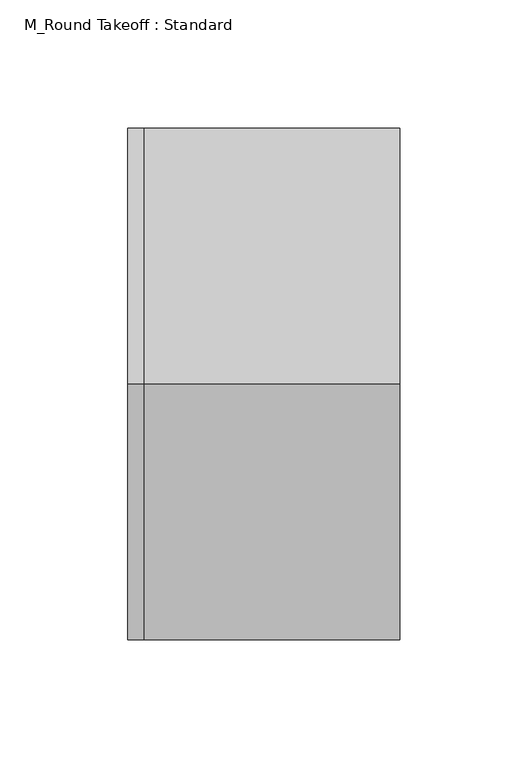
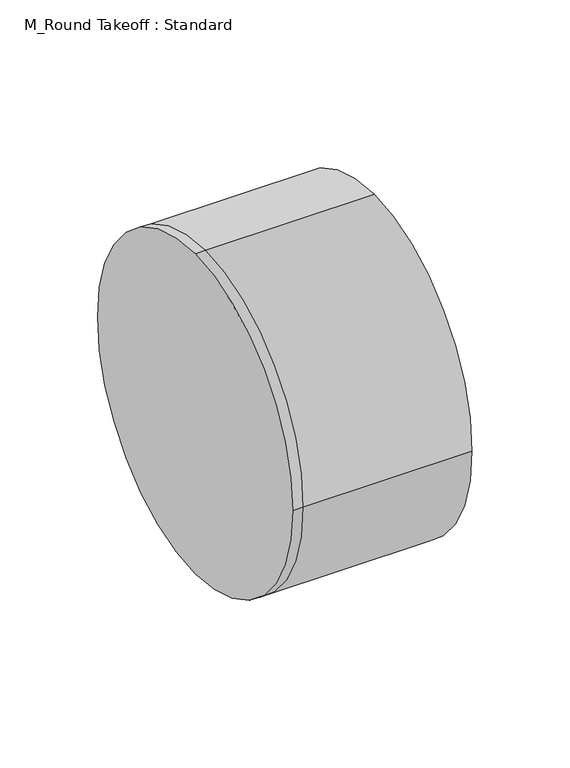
"""IFC4 building model written with IfcOpenShell, lengths in millimetres: duct fitting geometry, M_Round Takeoff : Standard."""

from ifc_helpers import new_model, si_unit, frame, origin, place, context, project, spatial, circle_curve, source, transform, mapped, element, save
from ifc_brep_helpers import plane_surface, cylinder_surface, advanced_brep


def m_round_takeoff_standard_9d520736(model_context):
    return source(origin(), model_context, "Body", "AdvancedBrep", [
        advanced_brep(
        [(-6.0960689, 0.0, 100.0), (-6.0960689, 100.0, 0.0), (-6.0960689, 0.0, -100.0), (-6.0960689, -100.0, 0.0), (0.0, 0.0, 100.0), (0.0, 100.0, 0.0), (0.0, 0.0, -100.0), (0.0, -100.0, 0.0), (100.0000689, 0.0, 100.0), (100.0000689, -100.0, 0.0), (100.0000689, 0.0, -100.0), (100.0000689, 100.0, 0.0)],
        [
            (0, 1, circle_curve(frame((-6.0960689, 0.0, 0.0), z_axis=(-1.0, 0.0, 0.0), x_axis=(0.0, 1.0, 0.0)), 100.0)),
            (1, 2, circle_curve(frame((-6.0960689, 0.0, 0.0), z_axis=(-1.0, 0.0, 0.0), x_axis=(0.0, 1.0, 0.0)), 100.0)),
            (2, 3, circle_curve(frame((-6.0960689, 0.0, 0.0), z_axis=(-1.0, 0.0, 0.0), x_axis=(0.0, 1.0, 0.0)), 100.0)),
            (3, 0, circle_curve(frame((-6.0960689, 0.0, 0.0), z_axis=(-1.0, 0.0, 0.0), x_axis=(0.0, 1.0, 0.0)), 100.0)),
            (0, 4),
            (4, 5, circle_curve(frame((0.0, 0.0, 0.0), z_axis=(-1.0, 0.0, 0.0), x_axis=(0.0, 1.0, 0.0)), 100.0)),
            (5, 1),
            (5, 6, circle_curve(frame((0.0, 0.0, 0.0), z_axis=(-1.0, 0.0, 0.0), x_axis=(0.0, 1.0, 0.0)), 100.0)),
            (6, 2),
            (6, 7, circle_curve(frame((0.0, 0.0, 0.0), z_axis=(-1.0, 0.0, 0.0), x_axis=(0.0, 1.0, 0.0)), 100.0)),
            (7, 3),
            (7, 4, circle_curve(frame((0.0, 0.0, 0.0), z_axis=(-1.0, 0.0, 0.0), x_axis=(0.0, 1.0, 0.0)), 100.0)),
            (8, 9, circle_curve(frame((100.0000689, 0.0, 0.0), z_axis=(1.0, 0.0, 0.0), x_axis=(0.0, 1.0, 0.0)), 100.0)),
            (9, 10, circle_curve(frame((100.0000689, 0.0, 0.0), z_axis=(1.0, 0.0, 0.0), x_axis=(0.0, 1.0, 0.0)), 100.0)),
            (10, 11, circle_curve(frame((100.0000689, 0.0, 0.0), z_axis=(1.0, 0.0, 0.0), x_axis=(0.0, 1.0, 0.0)), 100.0)),
            (11, 8, circle_curve(frame((100.0000689, 0.0, 0.0), z_axis=(1.0, 0.0, 0.0), x_axis=(0.0, 1.0, 0.0)), 100.0)),
            (11, 5),
            (4, 8),
            (10, 6),
            (9, 7),
        ],
        [
            plane_surface(frame((-6.0960689, 0.0, 0.0), z_axis=(-1.0, 0.0, 0.0), x_axis=(0.0, 0.0, 1.0))),
            cylinder_surface(frame((-6.0960689, 0.0, 0.0), z_axis=(-1.0, 0.0, 0.0), x_axis=(0.0, 1.0, 0.0)), 100.0),
            plane_surface(frame((100.0000689, 0.0, 0.0), z_axis=(1.0, 0.0, 0.0), x_axis=(0.0, 0.0, 1.0))),
            cylinder_surface(frame((0.0, 0.0, 0.0), z_axis=(-1.0, 0.0, 0.0), x_axis=(0.0, 1.0, 0.0)), 100.0),
        ],
        [
            (0, [[1, 2, 3, 4]]),
            (1, [[-1, 5, 6, 7]]),
            (1, [[-2, -7, 8, 9]]),
            (1, [[-3, -9, 10, 11]]),
            (1, [[-4, -11, 12, -5]]),
            (2, [[13, 14, 15, 16]]),
            (3, [[-16, 17, -6, 18]]),
            (3, [[-15, 19, -8, -17]]),
            (3, [[-14, 20, -10, -19]]),
            (3, [[-13, -18, -12, -20]]),
        ],
    ),
        advanced_brep(
        [(100.0000689, 0.0, 100.0), (100.0000689, -100.0, 0.0), (100.0000689, 0.0, -100.0), (100.0000689, 100.0, 0.0), (0.0, 100.0, 0.0), (0.0, 0.0, 100.0), (0.0, 0.0, -100.0), (0.0, -100.0, 0.0), (-6.0960689, 0.0, 100.0), (-6.0960689, 100.0, 0.0), (-6.0960689, 0.0, -100.0), (-6.0960689, -100.0, 0.0)],
        [
            (0, 1, circle_curve(frame((100.0000689, 0.0, 0.0), z_axis=(1.0, 0.0, 0.0), x_axis=(0.0, 1.0, 0.0)), 100.0)),
            (1, 2, circle_curve(frame((100.0000689, 0.0, 0.0), z_axis=(1.0, 0.0, 0.0), x_axis=(0.0, 1.0, 0.0)), 100.0)),
            (2, 3, circle_curve(frame((100.0000689, 0.0, 0.0), z_axis=(1.0, 0.0, 0.0), x_axis=(0.0, 1.0, 0.0)), 100.0)),
            (3, 0, circle_curve(frame((100.0000689, 0.0, 0.0), z_axis=(1.0, 0.0, 0.0), x_axis=(0.0, 1.0, 0.0)), 100.0)),
            (3, 4),
            (4, 5, circle_curve(frame((0.0, 0.0, 0.0), z_axis=(1.0, 0.0, 0.0), x_axis=(0.0, 1.0, 0.0)), 100.0)),
            (5, 0),
            (2, 6),
            (6, 4, circle_curve(frame((0.0, 0.0, 0.0), z_axis=(1.0, 0.0, 0.0), x_axis=(0.0, 1.0, 0.0)), 100.0)),
            (1, 7),
            (7, 6, circle_curve(frame((0.0, 0.0, 0.0), z_axis=(1.0, 0.0, 0.0), x_axis=(0.0, 1.0, 0.0)), 100.0)),
            (5, 7, circle_curve(frame((0.0, 0.0, 0.0), z_axis=(1.0, 0.0, 0.0), x_axis=(0.0, 1.0, 0.0)), 100.0)),
            (8, 9, circle_curve(frame((-6.0960689, 0.0, 0.0), z_axis=(-1.0, 0.0, 0.0), x_axis=(0.0, 1.0, 0.0)), 100.0)),
            (9, 10, circle_curve(frame((-6.0960689, 0.0, 0.0), z_axis=(-1.0, 0.0, 0.0), x_axis=(0.0, 1.0, 0.0)), 100.0)),
            (10, 11, circle_curve(frame((-6.0960689, 0.0, 0.0), z_axis=(-1.0, 0.0, 0.0), x_axis=(0.0, 1.0, 0.0)), 100.0)),
            (11, 8, circle_curve(frame((-6.0960689, 0.0, 0.0), z_axis=(-1.0, 0.0, 0.0), x_axis=(0.0, 1.0, 0.0)), 100.0)),
            (8, 5),
            (4, 9),
            (6, 10),
            (7, 11),
        ],
        [
            plane_surface(frame((100.0000689, 0.0, 0.0), z_axis=(1.0, 0.0, 0.0), x_axis=(0.0, 0.0, 1.0))),
            cylinder_surface(frame((0.0, 0.0, 0.0), z_axis=(-1.0, 0.0, 0.0), x_axis=(0.0, 1.0, 0.0)), 100.0),
            plane_surface(frame((-6.0960689, 0.0, 0.0), z_axis=(-1.0, 0.0, 0.0), x_axis=(0.0, 0.0, 1.0))),
            cylinder_surface(frame((-6.0960689, 0.0, 0.0), z_axis=(-1.0, 0.0, 0.0), x_axis=(0.0, 1.0, 0.0)), 100.0),
        ],
        [
            (0, [[1, 2, 3, 4]]),
            (1, [[-4, 5, 6, 7]]),
            (1, [[-3, 8, 9, -5]]),
            (1, [[-2, 10, 11, -8]]),
            (1, [[-1, -7, 12, -10]]),
            (2, [[13, 14, 15, 16]]),
            (3, [[-13, 17, -6, 18]]),
            (3, [[-14, -18, -9, 19]]),
            (3, [[-15, -19, -11, 20]]),
            (3, [[-16, -20, -12, -17]]),
        ],
    ),
        advanced_brep(
        [(-6.0960689, 0.0, 100.0), (-6.0960689, 100.0, 0.0), (-6.0960689, 0.0, -100.0), (-6.0960689, -100.0, 0.0), (0.0, 0.0, 100.0), (0.0, 100.0, 0.0), (0.0, 0.0, -100.0), (0.0, -100.0, 0.0), (100.0000689, 0.0, 100.0), (100.0000689, -100.0, 0.0), (100.0000689, 0.0, -100.0), (100.0000689, 100.0, 0.0)],
        [
            (0, 1, circle_curve(frame((-6.0960689, 0.0, 0.0), z_axis=(-1.0, 0.0, 0.0), x_axis=(0.0, 1.0, 0.0)), 100.0)),
            (1, 2, circle_curve(frame((-6.0960689, 0.0, 0.0), z_axis=(-1.0, 0.0, 0.0), x_axis=(0.0, 1.0, 0.0)), 100.0)),
            (2, 3, circle_curve(frame((-6.0960689, 0.0, 0.0), z_axis=(-1.0, 0.0, 0.0), x_axis=(0.0, 1.0, 0.0)), 100.0)),
            (3, 0, circle_curve(frame((-6.0960689, 0.0, 0.0), z_axis=(-1.0, 0.0, 0.0), x_axis=(0.0, 1.0, 0.0)), 100.0)),
            (0, 4),
            (4, 5, circle_curve(frame((0.0, 0.0, 0.0), z_axis=(-1.0, 0.0, 0.0), x_axis=(0.0, 1.0, 0.0)), 100.0)),
            (5, 1),
            (5, 6, circle_curve(frame((0.0, 0.0, 0.0), z_axis=(-1.0, 0.0, 0.0), x_axis=(0.0, 1.0, 0.0)), 100.0)),
            (6, 2),
            (6, 7, circle_curve(frame((0.0, 0.0, 0.0), z_axis=(-1.0, 0.0, 0.0), x_axis=(0.0, 1.0, 0.0)), 100.0)),
            (7, 3),
            (7, 4, circle_curve(frame((0.0, 0.0, 0.0), z_axis=(-1.0, 0.0, 0.0), x_axis=(0.0, 1.0, 0.0)), 100.0)),
            (8, 9, circle_curve(frame((100.0000689, 0.0, 0.0), z_axis=(1.0, 0.0, 0.0), x_axis=(0.0, 1.0, 0.0)), 100.0)),
            (9, 10, circle_curve(frame((100.0000689, 0.0, 0.0), z_axis=(1.0, 0.0, 0.0), x_axis=(0.0, 1.0, 0.0)), 100.0)),
            (10, 11, circle_curve(frame((100.0000689, 0.0, 0.0), z_axis=(1.0, 0.0, 0.0), x_axis=(0.0, 1.0, 0.0)), 100.0)),
            (11, 8, circle_curve(frame((100.0000689, 0.0, 0.0), z_axis=(1.0, 0.0, 0.0), x_axis=(0.0, 1.0, 0.0)), 100.0)),
            (11, 5),
            (4, 8),
            (10, 6),
            (9, 7),
        ],
        [
            plane_surface(frame((-6.0960689, 0.0, 0.0), z_axis=(-1.0, 0.0, 0.0), x_axis=(0.0, 0.0, 1.0))),
            cylinder_surface(frame((-6.0960689, 0.0, 0.0), z_axis=(-1.0, 0.0, 0.0), x_axis=(0.0, 1.0, 0.0)), 100.0),
            plane_surface(frame((100.0000689, 0.0, 0.0), z_axis=(1.0, 0.0, 0.0), x_axis=(0.0, 0.0, 1.0))),
            cylinder_surface(frame((0.0, 0.0, 0.0), z_axis=(-1.0, 0.0, 0.0), x_axis=(0.0, 1.0, 0.0)), 100.0),
        ],
        [
            (0, [[1, 2, 3, 4]]),
            (1, [[-1, 5, 6, 7]]),
            (1, [[-2, -7, 8, 9]]),
            (1, [[-3, -9, 10, 11]]),
            (1, [[-4, -11, 12, -5]]),
            (2, [[13, 14, 15, 16]]),
            (3, [[-16, 17, -6, 18]]),
            (3, [[-15, 19, -8, -17]]),
            (3, [[-14, 20, -10, -19]]),
            (3, [[-13, -18, -12, -20]]),
        ],
    ),
    ])


if __name__ == "__main__":
    model = new_model("IFC4")
    model_context = context("Model", 3, world=origin())
    ifc_project = project(units=[si_unit("LENGTHUNIT", "METRE", prefix="MILLI")], contexts=[model_context])
    site = spatial("IfcSite", under=ifc_project)
    building = spatial("IfcBuilding", under=site)
    placement = place(None, origin())
    m_round_takeoff_standard_shape = m_round_takeoff_standard_9d520736(model_context)
    element("IfcDuctFitting", 1, ObjectType="M_Round Takeoff : Standard", at=placement, inside=building, context=model_context, shape_type="MappedRepresentation", body=[
        mapped(m_round_takeoff_standard_shape, transform((0.0, 0.0, 0.0), x_axis=(1.0, 0.0, 0.0), y_axis=(0.0, 1.0, 0.0), z_axis=(0.0, 0.0, 1.0))),
    ])
    save(model, "model.ifc")
